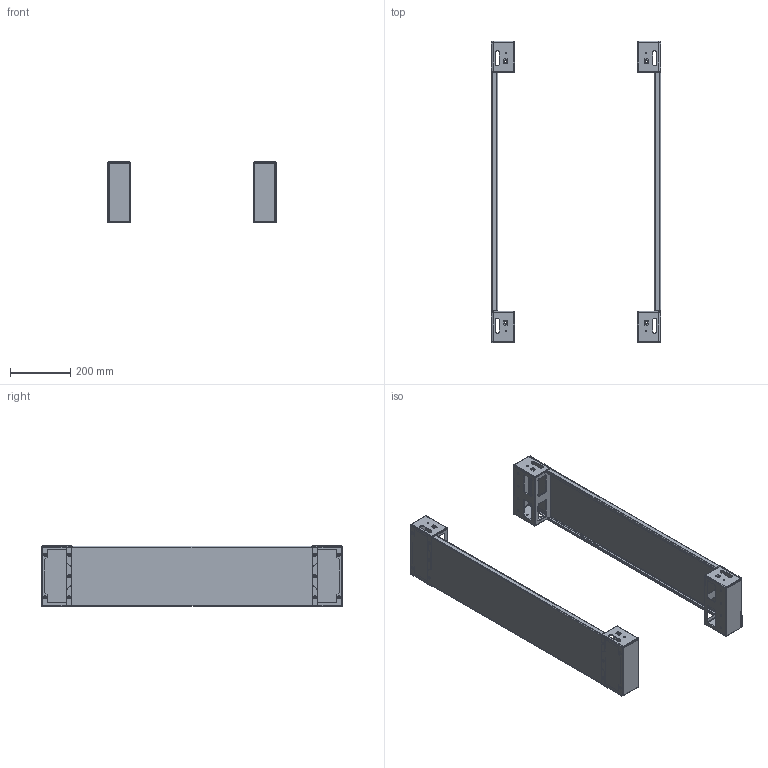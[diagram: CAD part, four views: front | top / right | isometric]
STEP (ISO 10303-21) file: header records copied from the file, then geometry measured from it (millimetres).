
FILE_DESCRIPTION(('STEP AP203'), '1');
FILE_NAME('3990 ÑÁ Ïåðåäíèå è çàäíèå ýëåìåíòû öîêîëÿ', '', ('UNSPECIFIED'), ('UNSPECIFIED'), 'C3D Converter', 'C3D Toolkit', '');
FILE_SCHEMA(('CONFIG_CONTROL_DESIGN'));
Length unit declared in the file: millimetre
Products named in the file (8): 3990.20.100 СБ; 3102; 3101; 3103; 3105
Assembly tree (28 placements, depth 3):
  3990.20.100 СБ
    3102  x4
      3101
      3103
      (unnamed)
      (unnamed)
    (unnamed)  x4
    3105  x2
    (unnamed)  x8
Bounding box: 560 x 998 x 200.5 mm (x, y, z)
Volume: 1185112.4 mm3; surface area: 1455557 mm2
Topology: 54 solids, 54 shells, 3032 faces, 8456 edges, 5620 vertices
Faces by surface type: cylinder 1848, plane 976, cone 124, sphere 64, torus 20
Full cylindrical faces by diameter (mm): 4.134 x20, 5 x28, 5.8 x20, 6.9 x20, 7 x16, 7.2 x20, 8.376 x4, 9.2 x20
Entity records: 12844 total; most frequent: CARTESIAN_POINT 2879, DIRECTION 2005, ORIENTED_EDGE 1760, EDGE_CURVE 880, AXIS2_PLACEMENT_3D 733, VERTEX_POINT 577, LINE 539, VECTOR 539
